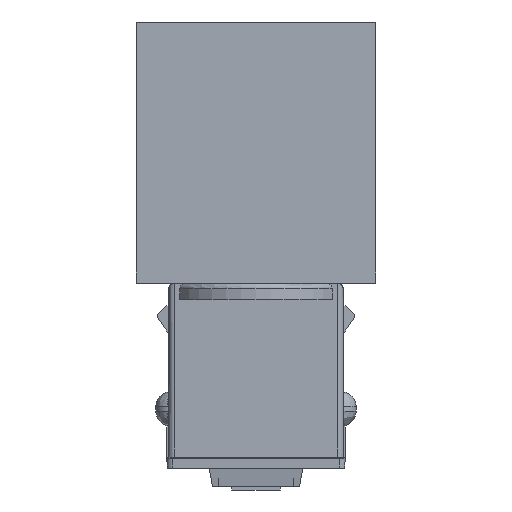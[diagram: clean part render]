
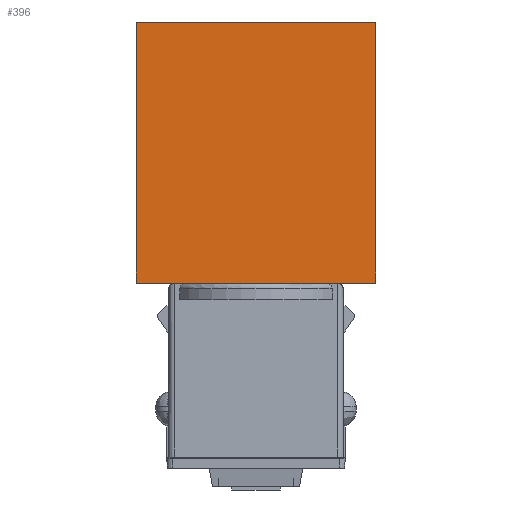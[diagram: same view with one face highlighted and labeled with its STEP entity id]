
A CAD part, front view. The second image highlights one B-rep face of the part: STEP entity #396.
In plain terms, the highlighted planar face has unit normal (0, -1, 0) as drawn and (0, 0, 1) by its records, which use the part's own axes.
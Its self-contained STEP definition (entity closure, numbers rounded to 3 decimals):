
#97=DIRECTION('',(0.,-1.,0.));
#98=VECTOR('',#97,3.);
#99=CARTESIAN_POINT('',(11.,13.5,109.5));
#100=LINE('',#99,#98);
#101=DIRECTION('',(0.,-1.,0.));
#102=VECTOR('',#101,21.);
#103=CARTESIAN_POINT('',(11.,10.5,109.5));
#104=LINE('',#103,#102);
#105=DIRECTION('',(-1.,0.,0.));
#106=VECTOR('',#105,22.);
#107=CARTESIAN_POINT('',(11.,-10.5,109.5));
#108=LINE('',#107,#106);
#109=DIRECTION('',(0.,1.,0.));
#110=VECTOR('',#109,21.);
#111=CARTESIAN_POINT('',(-11.,-10.5,109.5));
#112=LINE('',#111,#110);
#113=DIRECTION('',(0.,1.,0.));
#114=VECTOR('',#113,3.);
#115=CARTESIAN_POINT('',(-11.,10.5,109.5));
#116=LINE('',#115,#114);
#117=DIRECTION('',(1.,0.,0.));
#118=VECTOR('',#117,22.);
#119=CARTESIAN_POINT('',(-11.,13.5,109.5));
#120=LINE('',#119,#118);
#219=CARTESIAN_POINT('',(11.,10.5,109.5));
#220=VERTEX_POINT('',#219);
#221=CARTESIAN_POINT('',(11.,13.5,109.5));
#222=VERTEX_POINT('',#221);
#223=CARTESIAN_POINT('',(11.,-10.5,109.5));
#224=VERTEX_POINT('',#223);
#225=CARTESIAN_POINT('',(-11.,-10.5,109.5));
#226=VERTEX_POINT('',#225);
#235=CARTESIAN_POINT('',(-11.,10.5,109.5));
#236=VERTEX_POINT('',#235);
#237=CARTESIAN_POINT('',(-11.,13.5,109.5));
#238=VERTEX_POINT('',#237);
#383=CARTESIAN_POINT('',(0.,0.,109.5));
#384=DIRECTION('',(0.,0.,1.));
#385=DIRECTION('',(1.,0.,0.));
#386=AXIS2_PLACEMENT_3D('',#383,#384,#385);
#387=PLANE('',#386);
#388=ORIENTED_EDGE('',*,*,#291,.T.);
#389=ORIENTED_EDGE('',*,*,#306,.T.);
#390=ORIENTED_EDGE('',*,*,#320,.T.);
#391=ORIENTED_EDGE('',*,*,#344,.T.);
#392=ORIENTED_EDGE('',*,*,#358,.T.);
#393=ORIENTED_EDGE('',*,*,#371,.T.);
#394=EDGE_LOOP('',(#388,#389,#390,#391,#392,#393));
#395=FACE_OUTER_BOUND('',#394,.F.);
#291=EDGE_CURVE('',#222,#220,#100,.T.);
#306=EDGE_CURVE('',#220,#224,#104,.T.);
#320=EDGE_CURVE('',#224,#226,#108,.T.);
#344=EDGE_CURVE('',#226,#236,#112,.T.);
#358=EDGE_CURVE('',#236,#238,#116,.T.);
#371=EDGE_CURVE('',#238,#222,#120,.T.);
#396=ADVANCED_FACE('',(#395),#387,.T.);
